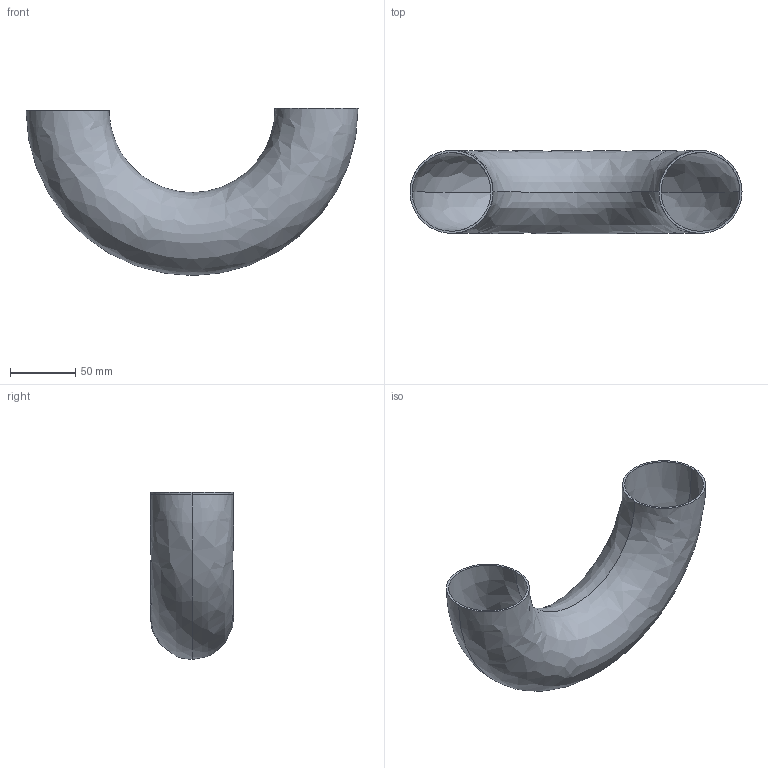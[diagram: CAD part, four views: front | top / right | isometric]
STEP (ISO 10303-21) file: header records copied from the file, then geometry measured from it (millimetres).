
FILE_DESCRIPTION (( 'STEP AP203' ), '1' );
FILE_NAME ('E2WU2.5.STEP', '2018-04-30T18:24:03', ( 'vneprd' ), ( 'Microsoft' ), 'SwSTEP 2.0', 'SolidWorks 2014', '' );
FILE_SCHEMA (( 'CONFIG_CONTROL_DESIGN' ));
Length unit declared in the file: inch
Products named in the file (1): E2WU2.5
Bounding box: 253.99 x 63.5 x 127.85 mm (x, y, z)
Volume: 95999.6 mm3; surface area: 116924.9 mm2
Topology: 1 solids, 1 shells, 10 faces, 22 edges, 14 vertices
Faces by surface type: bspline 8, plane 2
Entity records: 5857 total; most frequent: CARTESIAN_POINT 5591, ORIENTED_EDGE 44, DIRECTION 26, EDGE_CURVE 22, VERTEX_POINT 14, AXIS2_PLACEMENT_3D 13, B_SPLINE_CURVE_WITH_KNOTS 12, EDGE_LOOP 12
